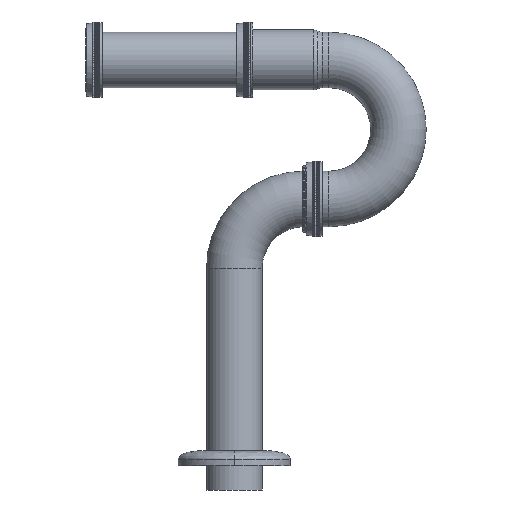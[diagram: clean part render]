
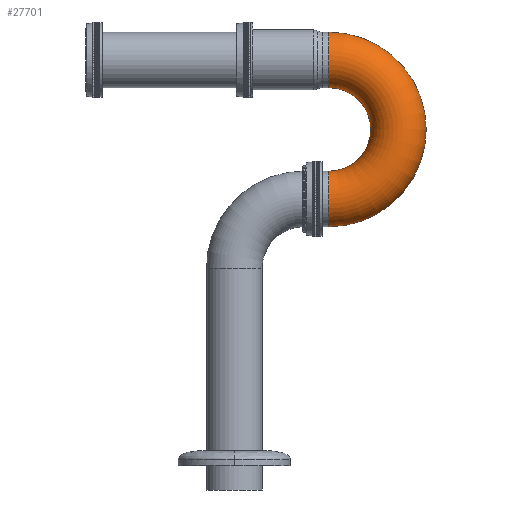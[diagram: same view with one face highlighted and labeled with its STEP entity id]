
A CAD part, left-side view. The second image highlights one B-rep face of the part: STEP entity #27701.
In plain terms, the highlighted toroidal (fillet/blend) face has major radius 40 mm and minor radius 16 mm.
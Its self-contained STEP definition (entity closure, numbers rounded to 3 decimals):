
#593 = AXIS2_PLACEMENT_3D ( 'NONE', #30707, #43308, #4584 ) ;
#1022 = CIRCLE ( 'NONE', #15352, 16. ) ;
#2370 = DIRECTION ( 'NONE',  ( -1., 0., 0. ) ) ;
#2455 = CARTESIAN_POINT ( 'NONE',  ( 0., -54.5, 137.529 ) ) ;
#2700 = DIRECTION ( 'NONE',  ( 0., 0., -1. ) ) ;
#4584 = DIRECTION ( 'NONE',  ( 0., 0., 1. ) ) ;
#6746 = DIRECTION ( 'NONE',  ( 0., 0., 1. ) ) ;
#6792 = DIRECTION ( 'NONE',  ( -1., 0., 0. ) ) ;
#7192 = DIRECTION ( 'NONE',  ( 0., 0., -1. ) ) ;
#7268 = CARTESIAN_POINT ( 'NONE',  ( 0., -54.5, 153.529 ) ) ;
#10815 = CARTESIAN_POINT ( 'NONE',  ( 0., -54.5, 193.529 ) ) ;
#11499 = EDGE_CURVE ( 'NONE', #11992, #17310, #1022, .T. ) ;
#11992 = VERTEX_POINT ( 'NONE', #2455 ) ;
#14407 = CARTESIAN_POINT ( 'NONE',  ( 0., -54.5, 249.529 ) ) ;
#15352 = AXIS2_PLACEMENT_3D ( 'NONE', #7268, #41995, #2700 ) ;
#17310 = VERTEX_POINT ( 'NONE', #22841 ) ;
#18646 = AXIS2_PLACEMENT_3D ( 'NONE', #10815, #6792, #24102 ) ;
#19037 = CIRCLE ( 'NONE', #27732, 24. ) ;
#19335 = AXIS2_PLACEMENT_3D ( 'NONE', #46286, #46470, #7192 ) ;
#20249 = ORIENTED_EDGE ( 'NONE', *, *, #11499, .F. ) ;
#22841 = CARTESIAN_POINT ( 'NONE',  ( 0., -54.5, 169.529 ) ) ;
#24102 = DIRECTION ( 'NONE',  ( 0., 0., 1. ) ) ;
#25454 = ORIENTED_EDGE ( 'NONE', *, *, #54070, .T. ) ;
#26432 = EDGE_LOOP ( 'NONE', ( #20249, #41278, #25454, #44444 ) ) ;
#27701 = ADVANCED_FACE ( 'NONE', ( #44228 ), #36013, .T. ) ;
#27732 = AXIS2_PLACEMENT_3D ( 'NONE', #55939, #2370, #6746 ) ;
#30707 = CARTESIAN_POINT ( 'NONE',  ( 0., -54.5, 193.529 ) ) ;
#34006 = EDGE_CURVE ( 'NONE', #11992, #50176, #34996, .T. ) ;
#34996 = CIRCLE ( 'NONE', #593, 56. ) ;
#36013 = TOROIDAL_SURFACE ( 'NONE', #18646, 40., 16. ) ;
#36291 = EDGE_CURVE ( 'NONE', #17310, #39828, #19037, .T. ) ;
#39828 = VERTEX_POINT ( 'NONE', #41336 ) ;
#41278 = ORIENTED_EDGE ( 'NONE', *, *, #34006, .T. ) ;
#41336 = CARTESIAN_POINT ( 'NONE',  ( 0., -54.5, 217.529 ) ) ;
#41995 = DIRECTION ( 'NONE',  ( 0., 1., 0. ) ) ;
#43308 = DIRECTION ( 'NONE',  ( -1., 0., 0. ) ) ;
#44228 = FACE_OUTER_BOUND ( 'NONE', #26432, .T. ) ;
#44444 = ORIENTED_EDGE ( 'NONE', *, *, #36291, .F. ) ;
#46286 = CARTESIAN_POINT ( 'NONE',  ( 0., -54.5, 233.529 ) ) ;
#46470 = DIRECTION ( 'NONE',  ( 0., -1., 0. ) ) ;
#50176 = VERTEX_POINT ( 'NONE', #14407 ) ;
#51733 = CIRCLE ( 'NONE', #19335, 16. ) ;
#54070 = EDGE_CURVE ( 'NONE', #50176, #39828, #51733, .T. ) ;
#55939 = CARTESIAN_POINT ( 'NONE',  ( 0., -54.5, 193.529 ) ) ;
